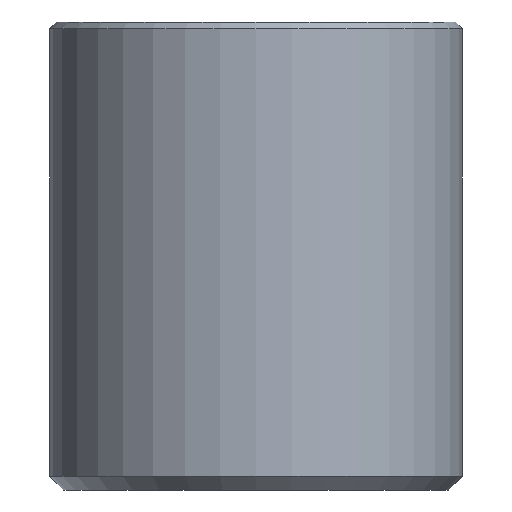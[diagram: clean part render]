
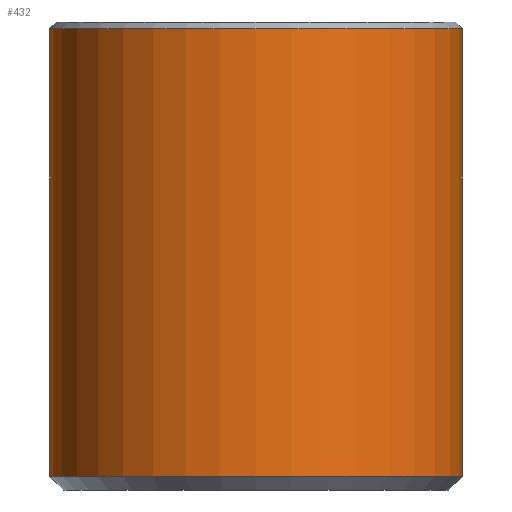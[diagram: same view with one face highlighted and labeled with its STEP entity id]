
A CAD part, front view. The second image highlights one B-rep face of the part: STEP entity #432.
In plain terms, the highlighted cylindrical face has radius 15 mm (diameter 30 mm), a partial arc.
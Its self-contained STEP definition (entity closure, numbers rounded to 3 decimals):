
#107=CARTESIAN_POINT('',(0.,0.,-0.5));
#108=DIRECTION('',(0.,0.,-1.));
#109=DIRECTION('',(1.,0.,0.));
#110=AXIS2_PLACEMENT_3D('',#107,#108,#109);
#112=DIRECTION('',(0.,0.,-1.));
#113=VECTOR('',#112,32.5);
#114=CARTESIAN_POINT('',(15.,0.,
-0.5));
#115=LINE('',#114,#113);
#116=CARTESIAN_POINT('',(0.,0.,-33.));
#117=DIRECTION('',(0.,0.,-1.));
#118=DIRECTION('',(1.,0.,0.));
#119=AXIS2_PLACEMENT_3D('',#116,#117,#118);
#121=DIRECTION('',(0.,0.,-1.));
#122=VECTOR('',#121,32.5);
#123=CARTESIAN_POINT('',(-15.,0.,
-0.5));
#124=LINE('',#123,#122);
#269=CARTESIAN_POINT('',(15.,0.,-33.));
#270=CARTESIAN_POINT('',(-15.,0.,-33.));
#271=VERTEX_POINT('',#269);
#272=VERTEX_POINT('',#270);
#281=CARTESIAN_POINT('',(15.,0.,-0.5));
#282=CARTESIAN_POINT('',(-15.,0.,-0.5));
#283=VERTEX_POINT('',#281);
#284=VERTEX_POINT('',#282);
#418=CARTESIAN_POINT('',(0.,0.,-35.7));
#419=DIRECTION('',(0.,0.,1.));
#420=DIRECTION('',(-1.,0.,0.));
#421=AXIS2_PLACEMENT_3D('',#418,#419,#420);
#422=CYLINDRICAL_SURFACE('',#421,15.);
#423=ORIENTED_EDGE('',*,*,#408,.F.);
#425=ORIENTED_EDGE('',*,*,#424,.T.);
#427=ORIENTED_EDGE('',*,*,#426,.T.);
#429=ORIENTED_EDGE('',*,*,#428,.F.);
#430=EDGE_LOOP('',(#423,#425,#427,#429));
#431=FACE_OUTER_BOUND('',#430,.F.);
#432=ADVANCED_FACE('',(#431),#422,.T.);
#111=CIRCLE('',#110,15.);
#120=CIRCLE('',#119,15.);
#408=EDGE_CURVE('',#283,#284,#111,.T.);
#424=EDGE_CURVE('',#283,#271,#115,.T.);
#426=EDGE_CURVE('',#271,#272,#120,.T.);
#428=EDGE_CURVE('',#284,#272,#124,.T.);
